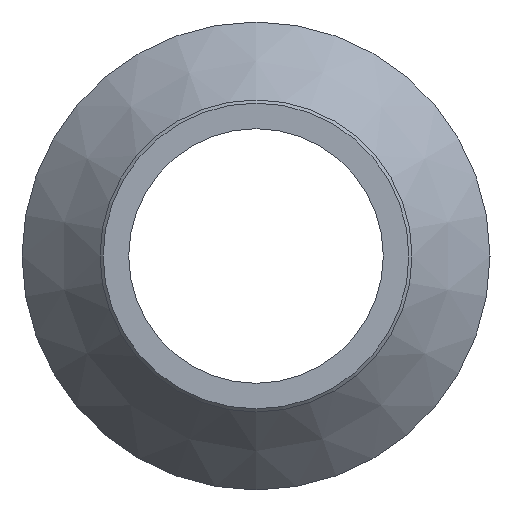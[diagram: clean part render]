
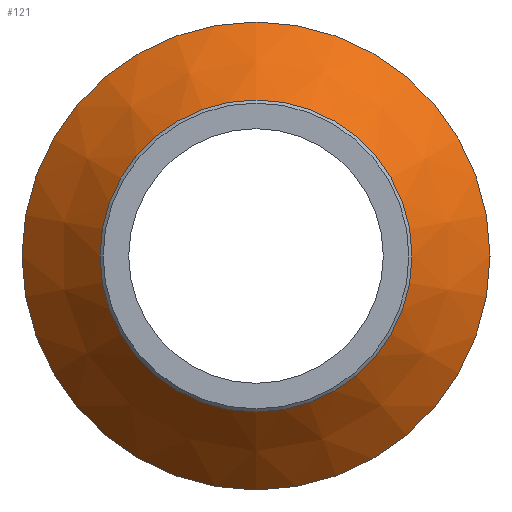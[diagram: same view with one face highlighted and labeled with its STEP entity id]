
A CAD part, left-side view. The second image highlights one B-rep face of the part: STEP entity #121.
In plain terms, the highlighted conical face has half-angle 41.76 degrees and reference radius 37.5 mm.
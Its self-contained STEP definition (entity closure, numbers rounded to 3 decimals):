
#22=CONICAL_SURFACE('',#146,37.5,0.729);
#28=ORIENTED_EDGE('',*,*,#48,.F.);
#29=ORIENTED_EDGE('',*,*,#47,.T.);
#47=EDGE_CURVE('',#57,#57,#67,.T.);
#48=EDGE_CURVE('',#58,#58,#68,.T.);
#57=VERTEX_POINT('',#210);
#58=VERTEX_POINT('',#213);
#67=CIRCLE('',#145,37.5);
#68=CIRCLE('',#147,25.);
#78=EDGE_LOOP('',(#28));
#79=EDGE_LOOP('',(#29));
#98=FACE_BOUND('',#78,.T.);
#99=FACE_BOUND('',#79,.T.);
#121=ADVANCED_FACE('',(#98,#99),#22,.T.);
#145=AXIS2_PLACEMENT_3D('',#209,#169,#170);
#146=AXIS2_PLACEMENT_3D('',#211,#171,#172);
#147=AXIS2_PLACEMENT_3D('',#212,#173,#174);
#169=DIRECTION('',(-1.,0.,0.));
#170=DIRECTION('',(0.,0.,1.));
#171=DIRECTION('',(1.,0.,0.));
#172=DIRECTION('',(0.,0.,-1.));
#173=DIRECTION('',(-1.,0.,0.));
#174=DIRECTION('',(0.,0.,1.));
#209=CARTESIAN_POINT('',(7.,0.,0.));
#210=CARTESIAN_POINT('',(7.,0.,37.5));
#211=CARTESIAN_POINT('',(7.,0.,0.));
#212=CARTESIAN_POINT('',(-7.,0.,0.));
#213=CARTESIAN_POINT('',(-7.,0.,25.));
